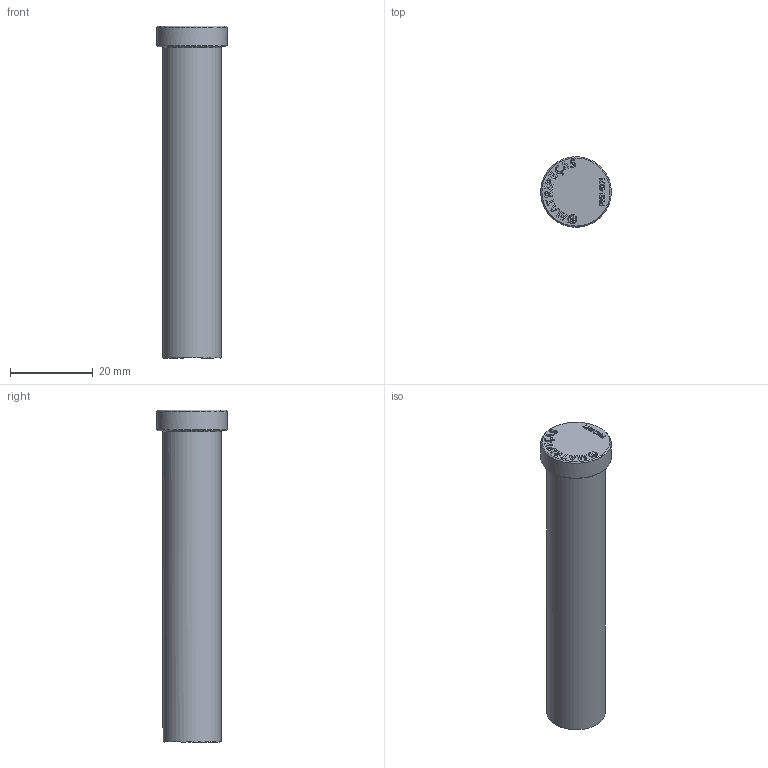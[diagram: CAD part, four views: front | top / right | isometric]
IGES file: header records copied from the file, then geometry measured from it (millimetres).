
Start section: C
Global section: file name: PNI14080.igs; native system: By Siemens PLM Incorporated; preprocessor: XPlus GENERIC/IGES 18.0.17; author: Author; organization: Title; date: 20240726.165415; units: millimetre
Bounding box: 17 x 16.99 x 80 mm (x, y, z)
Volume: 12730.9 mm3; surface area: 4015.9 mm2
Topology: 1 solids, 1 shells, 259 faces, 685 edges, 456 vertices
Faces by surface type: bspline 259
